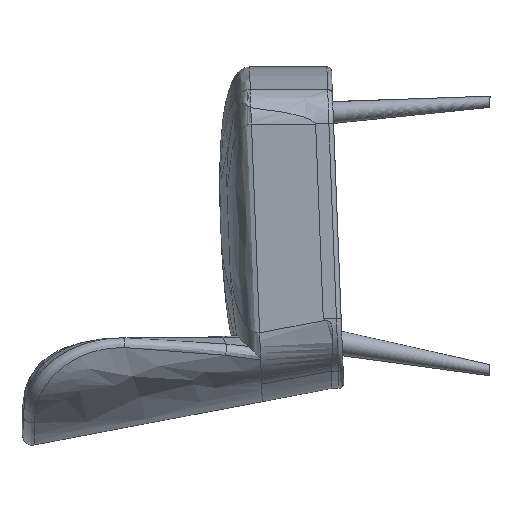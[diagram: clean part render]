
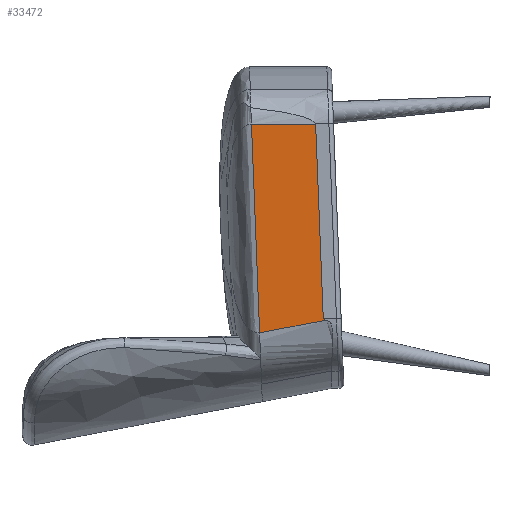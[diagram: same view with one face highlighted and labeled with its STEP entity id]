
A CAD part, left-side view. The second image highlights one B-rep face of the part: STEP entity #33472.
In plain terms, the highlighted planar face has unit normal (-0.999, -0.009, -0.05).
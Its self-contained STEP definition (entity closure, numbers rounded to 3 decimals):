
#22 = CARTESIAN_POINT ( 'NONE',  ( -609.889, 284.718, -428.176 ) ) ;
#266 = CARTESIAN_POINT ( 'NONE',  ( -609.846, 283.76, -428.85 ) ) ;
#396 = CARTESIAN_POINT ( 'NONE',  ( -609.933, 285.13, -427.379 ) ) ;
#2928 = CARTESIAN_POINT ( 'NONE',  ( -627.666, 407.872, -95.393 ) ) ;
#3999 = VECTOR ( 'NONE', #8981, 1000. ) ;
#6776 = CARTESIAN_POINT ( 'NONE',  ( -626.456, 278.215, -95.005 ) ) ;
#6901 = CARTESIAN_POINT ( 'NONE',  ( -609.738, 393.937, -451.954 ) ) ;
#7250 = LINE ( 'NONE', #6776, #9112 ) ;
#7312 = EDGE_CURVE ( 'NONE', #35746, #22404, #23715, .T. ) ;
#7577 = DIRECTION ( 'NONE',  ( 0.999, 0.009, 0.05 ) ) ;
#7811 = ORIENTED_EDGE ( 'NONE', *, *, #10345, .F. ) ;
#8981 = DIRECTION ( 'NONE',  ( -0.05, 0.039, 0.998 ) ) ;
#9112 = VECTOR ( 'NONE', #9356, 1000. ) ;
#9274 = CARTESIAN_POINT ( 'NONE',  ( -609.762, 280.849, -429.998 ) ) ;
#9356 = DIRECTION ( 'NONE',  ( 0.009, -1., 0.003 ) ) ;
#9398 = CARTESIAN_POINT ( 'NONE',  ( -609.874, 284.419, -428.43 ) ) ;
#9971 = EDGE_LOOP ( 'NONE', ( #7811, #29746, #21421, #16079, #22414 ) ) ;
#10345 = EDGE_CURVE ( 'NONE', #35746, #19738, #32519, .T. ) ;
#10548 = DIRECTION ( 'NONE',  ( 0.05, 0., -0.999 ) ) ;
#11836 = LINE ( 'NONE', #28415, #3999 ) ;
#11976 = CARTESIAN_POINT ( 'NONE',  ( -609.738, 279.845, -430.286 ) ) ;
#12219 = CARTESIAN_POINT ( 'NONE',  ( -609.787, 281.842, -429.672 ) ) ;
#12750 = VECTOR ( 'NONE', #29711, 1000. ) ;
#14915 = CARTESIAN_POINT ( 'NONE',  ( -609.869, 284.314, -428.507 ) ) ;
#15172 = CARTESIAN_POINT ( 'NONE',  ( -609.823, 283.056, -429.193 ) ) ;
#15551 = AXIS2_PLACEMENT_3D ( 'NONE', #25189, #7577, #10548 ) ;
#15810 = EDGE_CURVE ( 'NONE', #22404, #28451, #11836, .T. ) ;
#16079 = ORIENTED_EDGE ( 'NONE', *, *, #22341, .F. ) ;
#17995 = CARTESIAN_POINT ( 'NONE',  ( -609.926, 285.125, -427.512 ) ) ;
#18309 = VECTOR ( 'NONE', #19271, 1000. ) ;
#18738 = FACE_OUTER_BOUND ( 'NONE', #9971, .T. ) ;
#19271 = DIRECTION ( 'NONE',  ( -0.05, 0.039, 0.998 ) ) ;
#19738 = VERTEX_POINT ( 'NONE', #6901 ) ;
#20693 = CARTESIAN_POINT ( 'NONE',  ( -626.642, 298.117, -95.065 ) ) ;
#20816 = CARTESIAN_POINT ( 'NONE',  ( -609.884, 284.621, -428.265 ) ) ;
#21064 = CARTESIAN_POINT ( 'NONE',  ( -609.901, 284.892, -427.981 ) ) ;
#21421 = ORIENTED_EDGE ( 'NONE', *, *, #15810, .T. ) ;
#22341 = EDGE_CURVE ( 'NONE', #30269, #28451, #7250, .T. ) ;
#22404 = VERTEX_POINT ( 'NONE', #27344 ) ;
#22414 = ORIENTED_EDGE ( 'NONE', *, *, #31534, .F. ) ;
#23715 = B_SPLINE_CURVE_WITH_KNOTS ( 'NONE', 3,
 ( #11976, #23783, #9274, #12219, #32539, #15172, #26499, #266, #35754, #14915, #9398, #20816, #22, #21064, #32667, #29702, #17995, #396 ),
 .UNSPECIFIED., .F., .F.,
 ( 4, 2, 2, 2, 2, 2, 2, 2, 4 ),
 ( 0.016, 0.017, 0.019, 0.02, 0.02, 0.021, 0.021, 0.022, 0.022 ),
 .UNSPECIFIED. ) ;
#23783 = CARTESIAN_POINT ( 'NONE',  ( -609.749, 280.349, -430.146 ) ) ;
#24672 = CARTESIAN_POINT ( 'NONE',  ( -609.738, 393.937, -451.954 ) ) ;
#25189 = CARTESIAN_POINT ( 'NONE',  ( -630.31, -89.6, 52.067 ) ) ;
#26499 = CARTESIAN_POINT ( 'NONE',  ( -609.83, 283.294, -429.085 ) ) ;
#27344 = CARTESIAN_POINT ( 'NONE',  ( -609.933, 285.13, -427.379 ) ) ;
#28023 = PLANE ( 'NONE',  #15551 ) ;
#28415 = CARTESIAN_POINT ( 'NONE',  ( -633.26, 303.262, 36.565 ) ) ;
#28451 = VERTEX_POINT ( 'NONE', #20693 ) ;
#29702 = CARTESIAN_POINT ( 'NONE',  ( -609.919, 285.087, -427.64 ) ) ;
#29711 = DIRECTION ( 'NONE',  ( 0., 0.982, -0.187 ) ) ;
#29746 = ORIENTED_EDGE ( 'NONE', *, *, #7312, .T. ) ;
#30269 = VERTEX_POINT ( 'NONE', #2928 ) ;
#31042 = CARTESIAN_POINT ( 'NONE',  ( -609.738, 279.845, -430.286 ) ) ;
#31198 = LINE ( 'NONE', #24672, #18309 ) ;
#31534 = EDGE_CURVE ( 'NONE', #19738, #30269, #31198, .T. ) ;
#32302 = CARTESIAN_POINT ( 'NONE',  ( -609.738, 335.708, -440.895 ) ) ;
#32519 = LINE ( 'NONE', #32302, #12750 ) ;
#32539 = CARTESIAN_POINT ( 'NONE',  ( -609.801, 282.334, -429.496 ) ) ;
#32667 = CARTESIAN_POINT ( 'NONE',  ( -609.907, 284.97, -427.873 ) ) ;
#33472 = ADVANCED_FACE ( 'NONE', ( #18738 ), #28023, .F. ) ;
#35746 = VERTEX_POINT ( 'NONE', #31042 ) ;
#35754 = CARTESIAN_POINT ( 'NONE',  ( -609.855, 283.989, -428.722 ) ) ;
